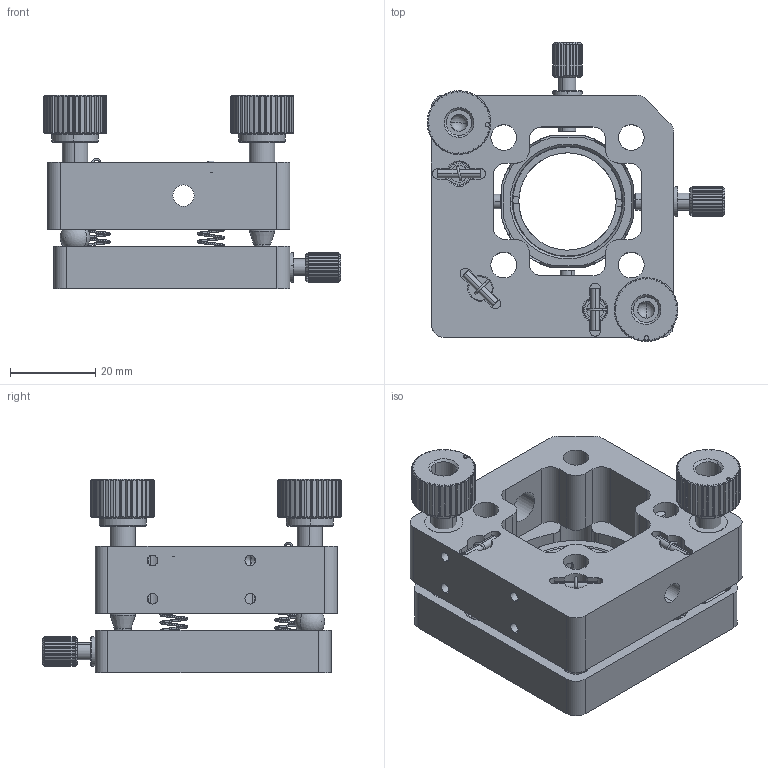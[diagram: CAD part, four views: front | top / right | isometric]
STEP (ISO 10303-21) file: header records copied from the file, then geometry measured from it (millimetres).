
FILE_DESCRIPTION (( 'STEP AP203' ), '1' );
FILE_NAME ('CM-26L2T.STEP', '2017-01-06T05:20:50', ( 'user' ), ( '' ), 'SwSTEP 2.0', 'SolidWorks 2012', '' );
FILE_SCHEMA (( 'CONFIG_CONTROL_DESIGN' ));
Length unit declared in the file: millimetre
Products named in the file (1): CM-26L2T
Bounding box: 70.01 x 70.41 x 45.5 mm (x, y, z)
Surface area: 28821.7 mm2 (no closed solid volume)
Topology: 0 solids, 33 shells, 1084 faces, 3732 edges, 2597 vertices
Faces by surface type: plane 424, cylinder 367, cone 188, bspline 88, torus 9, sphere 8
Entity records: 52773 total; most frequent: CARTESIAN_POINT 22666, ORIENTED_EDGE 6507, DIRECTION 5507, EDGE_CURVE 3715, VERTEX_POINT 2594, AXIS2_PLACEMENT_3D 1941, LINE 1625, VECTOR 1625
